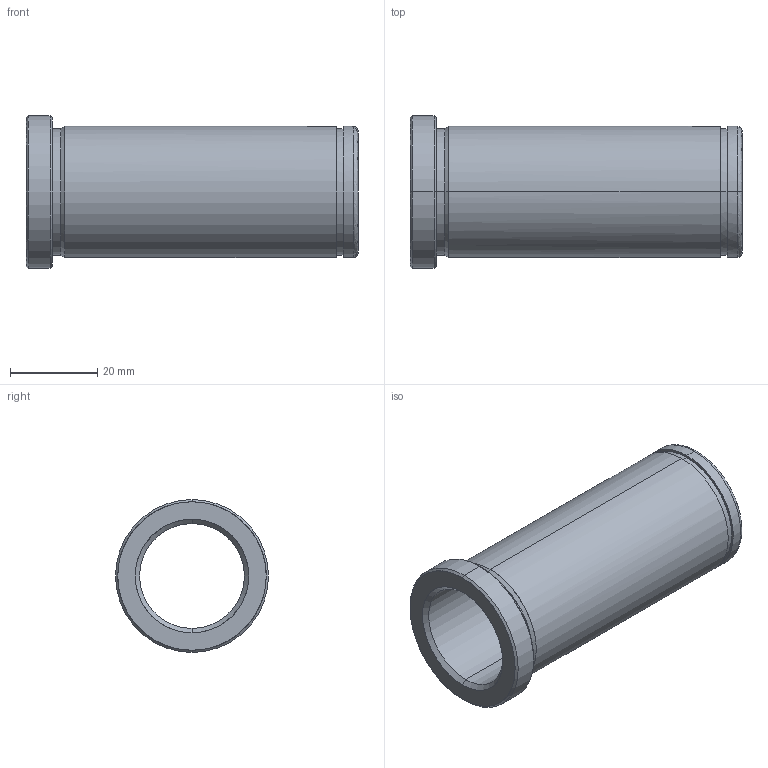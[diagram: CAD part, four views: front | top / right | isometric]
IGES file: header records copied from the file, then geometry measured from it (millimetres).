
Start section: START RECORD GO HERE.
Global section: file name: 553-24X76.igs; native system: DASSAULT SYSTEMES CATIA V5 R20 - www.3ds.com; preprocessor: CATIA Version 5 Release 20 ; author: Utente; organization: NB04-ASUS; date: 20210525.202008; units: millimetre
Bounding box: 76 x 35 x 35 mm (x, y, z)
Surface area: 13949.2 mm2 (no closed solid volume)
Topology: 0 solids, 0 shells, 29 faces, 184 edges, 184 vertices
Faces by surface type: revolution 24, plane 5
